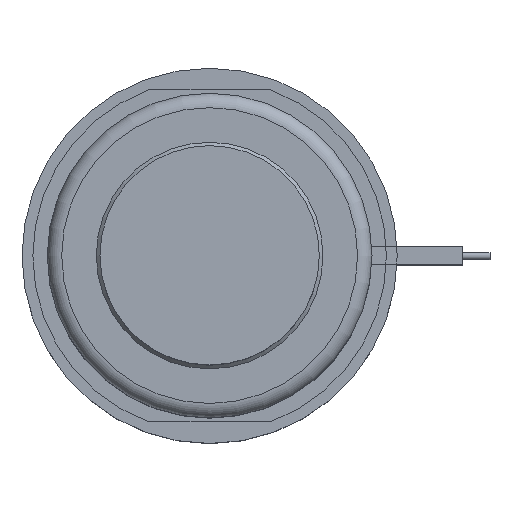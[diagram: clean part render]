
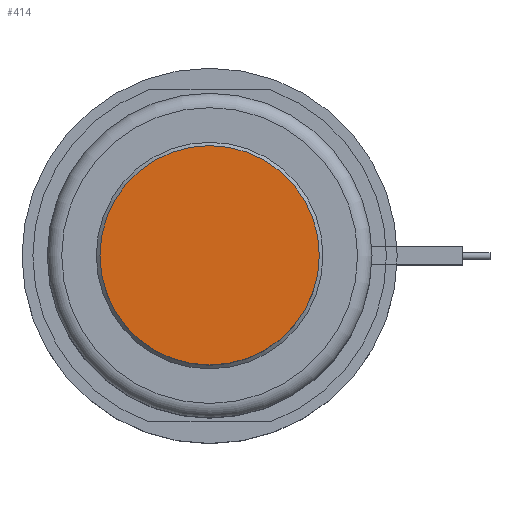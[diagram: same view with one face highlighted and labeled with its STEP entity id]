
A CAD part, top view. The second image highlights one B-rep face of the part: STEP entity #414.
In plain terms, the highlighted planar face has unit normal (0, 0, 1).
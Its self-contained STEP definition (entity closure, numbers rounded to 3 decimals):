
#262=PLANE('',#1392);
#322=FACE_OUTER_BOUND('',#649,.T.);
#414=ADVANCED_FACE('',(#322),#262,.F.);
#649=EDGE_LOOP('',(#897));
#897=ORIENTED_EDGE('',*,*,#1164,.F.);
#1034=VERTEX_POINT('',#2172);
#1164=EDGE_CURVE('',#1034,#1034,#1249,.T.);
#1249=CIRCLE('',#1391,15.2);
#1391=AXIS2_PLACEMENT_3D('',#2171,#1723,#1724);
#1392=AXIS2_PLACEMENT_3D('',#2173,#1725,#1726);
#1723=DIRECTION('',(0.,0.,-1.));
#1724=DIRECTION('',(-1.,0.,0.));
#1725=DIRECTION('',(0.,0.,-1.));
#1726=DIRECTION('',(-1.,0.,0.));
#2171=CARTESIAN_POINT('',(0.,0.,18.));
#2172=CARTESIAN_POINT('',(-15.2,0.,18.));
#2173=CARTESIAN_POINT('',(0.,0.,18.));
